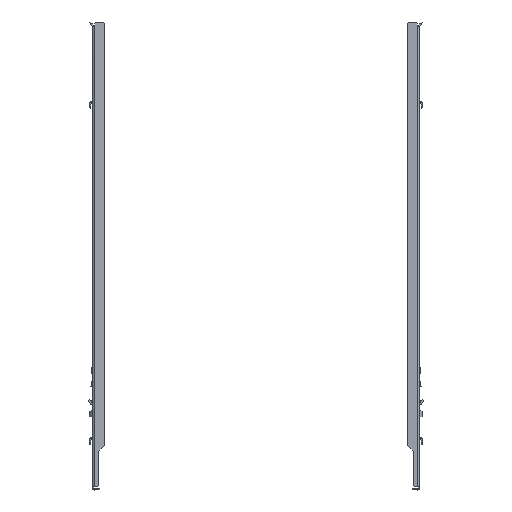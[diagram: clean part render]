
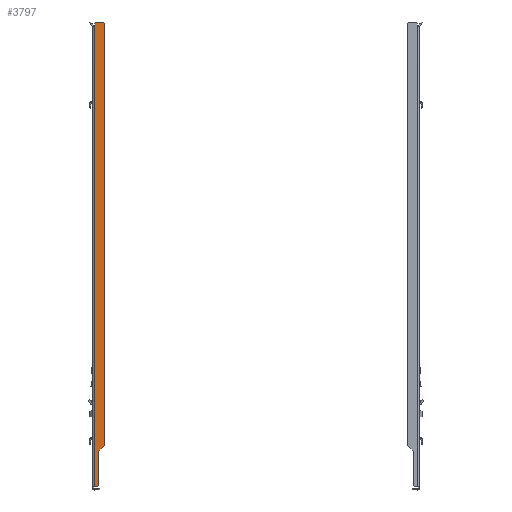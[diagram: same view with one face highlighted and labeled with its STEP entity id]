
A CAD part, front view. The second image highlights one B-rep face of the part: STEP entity #3797.
In plain terms, the highlighted planar face has unit normal (0.018, -1, 0).
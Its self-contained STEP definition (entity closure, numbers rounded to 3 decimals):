
#1=CARTESIAN_POINT('',(3.981,0.069,385.731));
#2=DIRECTION('',(-0.017,1.,0.));
#3=DIRECTION('',(-1.,-0.017,0.));
#4=AXIS2_PLACEMENT_3D('',#1,#2,#3);
#6=DIRECTION('',(0.707,0.012,0.707));
#7=VECTOR('',#6,2.707);
#8=CARTESIAN_POINT('',(3.274,0.057,386.438));
#9=LINE('',#8,#7);
#10=CARTESIAN_POINT('',(5.895,0.103,387.645));
#11=DIRECTION('',(-0.017,1.,0.));
#12=DIRECTION('',(-0.707,-0.012,0.707));
#13=AXIS2_PLACEMENT_3D('',#10,#11,#12);
#15=CARTESIAN_POINT('',(16.586,0.29,387.645));
#16=DIRECTION('',(-0.017,1.,0.));
#17=DIRECTION('',(0.,0.,1.));
#18=AXIS2_PLACEMENT_3D('',#15,#16,#17);
#20=DIRECTION('',(0.707,0.012,-0.707));
#21=VECTOR('',#20,3.414);
#22=CARTESIAN_POINT('',(17.293,0.302,388.352));
#23=LINE('',#22,#21);
#24=CARTESIAN_POINT('',(19.,0.332,385.231));
#25=DIRECTION('',(-0.017,1.,0.));
#26=DIRECTION('',(0.707,0.012,0.707));
#27=AXIS2_PLACEMENT_3D('',#24,#25,#26);
#29=CARTESIAN_POINT('',(19.,0.332,-315.191));
#30=DIRECTION('',(-0.017,1.,0.));
#31=DIRECTION('',(1.,0.017,0.));
#32=AXIS2_PLACEMENT_3D('',#29,#30,#31);
#34=DIRECTION('',(-0.707,-0.012,-0.707));
#35=VECTOR('',#34,13.728);
#36=CARTESIAN_POINT('',(19.707,0.344,-315.898));
#37=LINE('',#36,#35);
#38=DIRECTION('',(0.,0.,-1.));
#39=VECTOR('',#38,56.036);
#40=CARTESIAN_POINT('',(10.002,0.175,-325.605));
#41=LINE('',#40,#39);
#42=CARTESIAN_POINT('',(9.002,0.157,-381.641));
#43=DIRECTION('',(-0.017,1.,0.));
#44=DIRECTION('',(1.,0.017,0.));
#45=AXIS2_PLACEMENT_3D('',#42,#43,#44);
#47=DIRECTION('',(-0.707,-0.012,-0.707));
#48=VECTOR('',#47,3.414);
#49=CARTESIAN_POINT('',(9.709,0.169,-382.348));
#50=LINE('',#49,#48);
#51=CARTESIAN_POINT('',(6.588,0.115,-384.055));
#52=DIRECTION('',(-0.017,1.,0.));
#53=DIRECTION('',(0.707,0.012,-0.707));
#54=AXIS2_PLACEMENT_3D('',#51,#52,#53);
#56=DIRECTION('',(-1.,-0.017,0.));
#57=VECTOR('',#56,3.607);
#58=CARTESIAN_POINT('',(6.588,0.115,-385.055));
#59=LINE('',#58,#57);
#68=DIRECTION('',(0.,0.,-1.));
#69=VECTOR('',#68,4.556);
#70=CARTESIAN_POINT('',(2.981,0.052,385.731));
#71=LINE('',#70,#69);
#94=DIRECTION('',(0.,0.,-1.));
#95=VECTOR('',#94,766.23);
#96=CARTESIAN_POINT('',(2.981,0.052,381.175));
#97=LINE('',#96,#95);
#149=DIRECTION('',(0.,0.,1.));
#150=VECTOR('',#149,700.422);
#151=CARTESIAN_POINT('',(20.,0.349,-315.191));
#152=LINE('',#151,#150);
#2979=DIRECTION('',(-1.,-0.017,0.));
#2980=VECTOR('',#2979,10.693);
#2981=CARTESIAN_POINT('',(16.586,0.29,388.645));
#2982=LINE('',#2981,#2980);
#2991=CARTESIAN_POINT('',(2.981,0.052,385.731));
#2992=CARTESIAN_POINT('',(3.274,0.057,386.438));
#2993=VERTEX_POINT('',#2991);
#2994=VERTEX_POINT('',#2992);
#2995=CARTESIAN_POINT('',(5.188,0.091,388.352));
#2996=VERTEX_POINT('',#2995);
#2997=CARTESIAN_POINT('',(5.895,0.103,388.645));
#2998=VERTEX_POINT('',#2997);
#2999=CARTESIAN_POINT('',(16.586,0.29,388.645));
#3000=VERTEX_POINT('',#2999);
#3001=CARTESIAN_POINT('',(17.293,0.302,388.352));
#3002=VERTEX_POINT('',#3001);
#3003=CARTESIAN_POINT('',(19.707,0.344,385.938));
#3004=VERTEX_POINT('',#3003);
#3005=CARTESIAN_POINT('',(20.,0.349,385.231));
#3006=VERTEX_POINT('',#3005);
#3007=CARTESIAN_POINT('',(20.,0.349,-315.191));
#3008=VERTEX_POINT('',#3007);
#3009=CARTESIAN_POINT('',(19.707,0.344,
-315.898));
#3010=VERTEX_POINT('',#3009);
#3011=CARTESIAN_POINT('',(10.002,0.175,-325.605));
#3012=VERTEX_POINT('',#3011);
#3013=CARTESIAN_POINT('',(10.002,0.175,
-381.641));
#3014=VERTEX_POINT('',#3013);
#3015=CARTESIAN_POINT('',(9.709,0.169,
-382.348));
#3016=VERTEX_POINT('',#3015);
#3017=CARTESIAN_POINT('',(7.295,0.127,
-384.762));
#3018=VERTEX_POINT('',#3017);
#3019=CARTESIAN_POINT('',(6.588,0.115,-385.055));
#3020=VERTEX_POINT('',#3019);
#3021=CARTESIAN_POINT('',(2.981,0.052,-385.055));
#3022=VERTEX_POINT('',#3021);
#3023=CARTESIAN_POINT('',(2.981,0.052,381.175));
#3024=VERTEX_POINT('',#3023);
#3756=CARTESIAN_POINT('',(2.981,0.052,387.175));
#3757=DIRECTION('',(-0.017,1.,0.));
#3758=DIRECTION('',(1.,0.017,0.));
#3759=AXIS2_PLACEMENT_3D('',#3756,#3757,#3758);
#3760=PLANE('',#3759);
#3762=ORIENTED_EDGE('',*,*,#3761,.T.);
#3764=ORIENTED_EDGE('',*,*,#3763,.T.);
#3766=ORIENTED_EDGE('',*,*,#3765,.T.);
#3768=ORIENTED_EDGE('',*,*,#3767,.F.);
#3770=ORIENTED_EDGE('',*,*,#3769,.T.);
#3772=ORIENTED_EDGE('',*,*,#3771,.T.);
#3774=ORIENTED_EDGE('',*,*,#3773,.T.);
#3776=ORIENTED_EDGE('',*,*,#3775,.F.);
#3778=ORIENTED_EDGE('',*,*,#3777,.T.);
#3780=ORIENTED_EDGE('',*,*,#3779,.T.);
#3782=ORIENTED_EDGE('',*,*,#3781,.T.);
#3784=ORIENTED_EDGE('',*,*,#3783,.T.);
#3786=ORIENTED_EDGE('',*,*,#3785,.T.);
#3788=ORIENTED_EDGE('',*,*,#3787,.T.);
#3790=ORIENTED_EDGE('',*,*,#3789,.T.);
#3792=ORIENTED_EDGE('',*,*,#3791,.F.);
#3794=ORIENTED_EDGE('',*,*,#3793,.F.);
#3795=EDGE_LOOP('',(#3762,#3764,#3766,#3768,#3770,#3772,#3774,#3776,#3778,#3780,
#3782,#3784,#3786,#3788,#3790,#3792,#3794));
#3796=FACE_OUTER_BOUND('',#3795,.F.);
#3797=ADVANCED_FACE('',(#3796),#3760,.F.);
#5=CIRCLE('',#4,1.);
#14=CIRCLE('',#13,1.);
#19=CIRCLE('',#18,1.);
#28=CIRCLE('',#27,1.);
#33=CIRCLE('',#32,1.);
#46=CIRCLE('',#45,1.);
#55=CIRCLE('',#54,1.);
#3761=EDGE_CURVE('',#2993,#2994,#5,.T.);
#3763=EDGE_CURVE('',#2994,#2996,#9,.T.);
#3765=EDGE_CURVE('',#2996,#2998,#14,.T.);
#3767=EDGE_CURVE('',#3000,#2998,#2982,.T.);
#3769=EDGE_CURVE('',#3000,#3002,#19,.T.);
#3771=EDGE_CURVE('',#3002,#3004,#23,.T.);
#3773=EDGE_CURVE('',#3004,#3006,#28,.T.);
#3775=EDGE_CURVE('',#3008,#3006,#152,.T.);
#3777=EDGE_CURVE('',#3008,#3010,#33,.T.);
#3779=EDGE_CURVE('',#3010,#3012,#37,.T.);
#3781=EDGE_CURVE('',#3012,#3014,#41,.T.);
#3783=EDGE_CURVE('',#3014,#3016,#46,.T.);
#3785=EDGE_CURVE('',#3016,#3018,#50,.T.);
#3787=EDGE_CURVE('',#3018,#3020,#55,.T.);
#3789=EDGE_CURVE('',#3020,#3022,#59,.T.);
#3791=EDGE_CURVE('',#3024,#3022,#97,.T.);
#3793=EDGE_CURVE('',#2993,#3024,#71,.T.);
